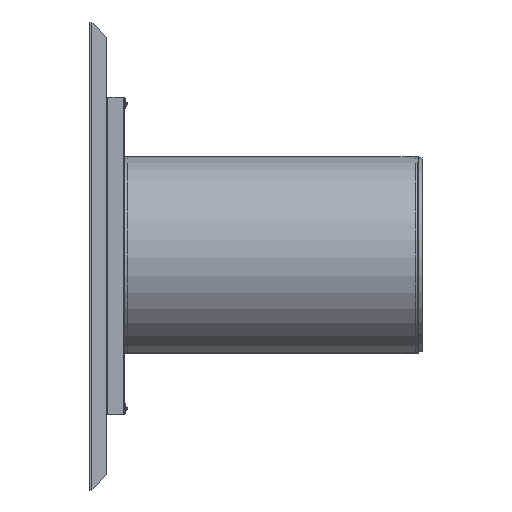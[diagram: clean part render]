
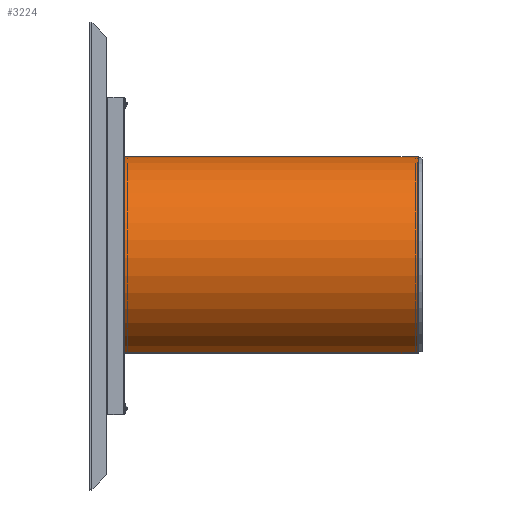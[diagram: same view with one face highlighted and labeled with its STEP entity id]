
A CAD part, left-side view. The second image highlights one B-rep face of the part: STEP entity #3224.
In plain terms, the highlighted cylindrical face has radius 230 mm (diameter 460 mm), a partial arc.
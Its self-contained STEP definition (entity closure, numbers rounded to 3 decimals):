
#1001 = AXIS2_PLACEMENT_3D ( 'NONE', #18991, #4270, #10936 ) ;
#1784 = EDGE_CURVE ( 'NONE', #13440, #17312, #9779, .T. ) ;
#1898 = ORIENTED_EDGE ( 'NONE', *, *, #1784, .T. ) ;
#2307 = DIRECTION ( 'NONE',  ( 0., 1., 0. ) ) ;
#3224 = ADVANCED_FACE ( 'NONE', ( #7920 ), #19206, .T. ) ;
#4270 = DIRECTION ( 'NONE',  ( 0., -1., 0. ) ) ;
#4633 = CARTESIAN_POINT ( 'NONE',  ( 2., 665., 230. ) ) ;
#5046 = CARTESIAN_POINT ( 'NONE',  ( 2., 665., 230. ) ) ;
#5179 = EDGE_LOOP ( 'NONE', ( #8831, #8388, #11446, #1898 ) ) ;
#5344 = AXIS2_PLACEMENT_3D ( 'NONE', #13801, #2307, #8852 ) ;
#6108 = CARTESIAN_POINT ( 'NONE',  ( 2., 665., 0. ) ) ;
#6826 = VERTEX_POINT ( 'NONE', #12263 ) ;
#7920 = FACE_OUTER_BOUND ( 'NONE', #5179, .T. ) ;
#8013 = EDGE_CURVE ( 'NONE', #17312, #13708, #11867, .T. ) ;
#8388 = ORIENTED_EDGE ( 'NONE', *, *, #15578, .F. ) ;
#8559 = CIRCLE ( 'NONE', #11975, 230. ) ;
#8831 = ORIENTED_EDGE ( 'NONE', *, *, #8013, .T. ) ;
#8852 = DIRECTION ( 'NONE',  ( 0., 0., 1. ) ) ;
#9779 = LINE ( 'NONE', #5046, #13095 ) ;
#9897 = CARTESIAN_POINT ( 'NONE',  ( 2., 0., -230. ) ) ;
#10513 = CARTESIAN_POINT ( 'NONE',  ( 2., 665., -230. ) ) ;
#10936 = DIRECTION ( 'NONE',  ( 0., 0., -1. ) ) ;
#11446 = ORIENTED_EDGE ( 'NONE', *, *, #11965, .F. ) ;
#11601 = DIRECTION ( 'NONE',  ( 0., -1., 0. ) ) ;
#11867 = CIRCLE ( 'NONE', #5344, 230. ) ;
#11965 = EDGE_CURVE ( 'NONE', #13440, #6826, #8559, .T. ) ;
#11975 = AXIS2_PLACEMENT_3D ( 'NONE', #6108, #17196, #20508 ) ;
#12263 = CARTESIAN_POINT ( 'NONE',  ( 2., 665., -230. ) ) ;
#12455 = VECTOR ( 'NONE', #13619, 1000. ) ;
#13095 = VECTOR ( 'NONE', #11601, 1000. ) ;
#13440 = VERTEX_POINT ( 'NONE', #4633 ) ;
#13547 = CARTESIAN_POINT ( 'NONE',  ( 2., 0., 230. ) ) ;
#13619 = DIRECTION ( 'NONE',  ( 0., -1., 0. ) ) ;
#13708 = VERTEX_POINT ( 'NONE', #9897 ) ;
#13801 = CARTESIAN_POINT ( 'NONE',  ( 2., 0., 0. ) ) ;
#15578 = EDGE_CURVE ( 'NONE', #6826, #13708, #20298, .T. ) ;
#17196 = DIRECTION ( 'NONE',  ( 0., 1., 0. ) ) ;
#17312 = VERTEX_POINT ( 'NONE', #13547 ) ;
#18991 = CARTESIAN_POINT ( 'NONE',  ( 2., 665., 0. ) ) ;
#19206 = CYLINDRICAL_SURFACE ( 'NONE', #1001, 230. ) ;
#20298 = LINE ( 'NONE', #10513, #12455 ) ;
#20508 = DIRECTION ( 'NONE',  ( 0., 0., 1. ) ) ;
